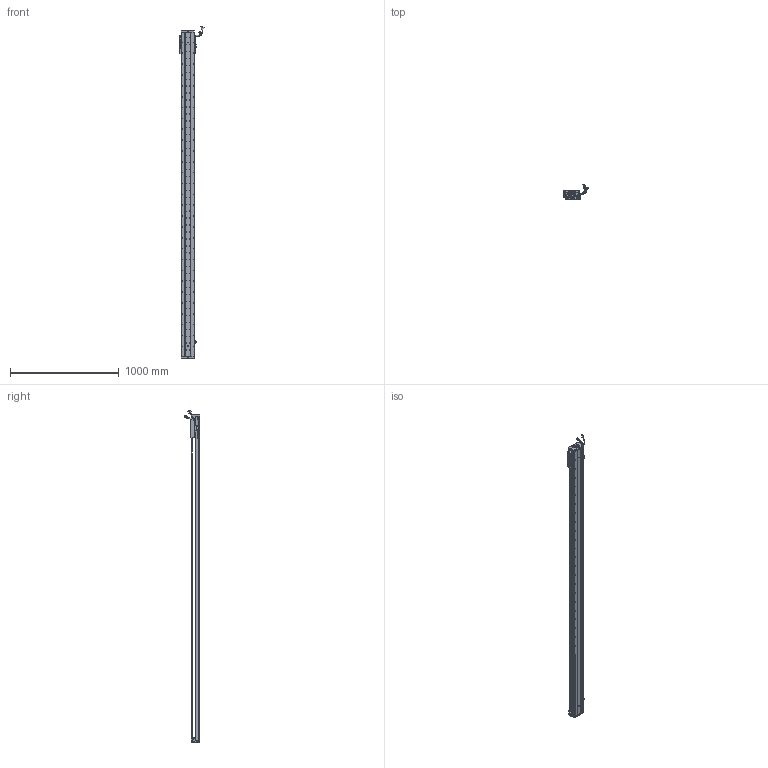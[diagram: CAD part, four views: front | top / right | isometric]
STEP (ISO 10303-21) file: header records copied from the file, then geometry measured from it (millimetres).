
FILE_DESCRIPTION (( 'STEP AP203' ), '1' );
FILE_NAME ('Z2-RY120D-1-L500-B-K.SLDASM_2750.step', '2021-05-17T05:40:10', ( '盈信电脑' ), ( '东莞市道滘镇水果街19号' ), 'SwSTEP 2.0', 'SolidWorks 2016', '' );
FILE_SCHEMA (( 'CONFIG_CONTROL_DESIGN' ));
Length unit declared in the file: millimetre
Products named in the file (37): 140雄赽晤鎢ん堤盄; SCALE-Part-2; SCREW-M1.6-2; SCALE-Part-1; SHIELDPLATE; HARNESS; Z2-RY120D-1-L500-B-K.SLDASM_2750; Z-120詩湍傷裔啣; SCALE; SCREW-M1.7-1; SCREW-M1.6-3; SEAL; HARNESS-Part-1; SEAL-Part-1; HOLDER0; 080黍杅芛假蚾釱21遴; Z2-RY120-L500詩湍100mm遵_2750; LABEL-Part-1; LABEL; COVER-Part-1; Z2-RY120-500-倰第菁釱_2750; 覜茼ん672; PSLH080_PSLF2; 120-Z-臏賑輸盄裔(21遴); PBU_SHEET; RY100FB-遵嫖萇覜茼え; Z2-RY120铝滑块（21款）; 榋妏寠巭燃_暯_M2_2; HARNESS-Part-2; Z-RY120D詩湍奻揤裔; SCREW-M1.6; Z-RY120D詩湍狟揤裔; COVER; 140蚥薯蝶輸; SCREW-M1.7; 672嫖萇羲壽假蚾釱; SCREW-M1.6-1
Assembly tree (43 placements, depth 4):
  Z2-RY120D-1-L500-B-K.SLDASM_2750
    Z2-RY120-500-倰第菁釱_2750
    覜茼ん672  x3
    672嫖萇羲壽假蚾釱  x2
    Z2-RY120铝滑块（21款）
    PSLH080_PSLF2
      SCALE
        SCALE-Part-1
        SCALE-Part-2
      HARNESS
        HARNESS-Part-1
        HARNESS-Part-2
      LABEL
        LABEL-Part-1
      COVER
        COVER-Part-1
      SEAL
        SEAL-Part-1
      榋妏寠巭燃_暯_M2_2
      SHIELDPLATE
      SCREW-M1.7
      SCREW-M1.7-1
      PBU_SHEET
      SCREW-M1.6
      SCREW-M1.6-1
      SCREW-M1.6-2
      SCREW-M1.6-3
      HOLDER0
    080黍杅芛假蚾釱21遴
    120-Z-臏賑輸盄裔(21遴)
    140雄赽晤鎢ん堤盄
    140蚥薯蝶輸  x2
    RY100FB-遵嫖萇覜茼え
    Z-120詩湍傷裔啣  x2
    Z-RY120D詩湍奻揤裔  x2
    Z-RY120D詩湍狟揤裔  x2
    Z2-RY120-L500詩湍100mm遵_2750
Bounding box: 222.83 x 140.94 x 3058.99 mm (x, y, z)
Volume: 6895138.5 mm3; surface area: 2449989.3 mm2
Topology: 38 solids, 38 shells, 3863 faces, 11108 edges, 7010 vertices
Faces by surface type: cylinder 2064, plane 1275, cone 402, torus 69, bspline 53
Entity records: 131977 total; most frequent: CARTESIAN_POINT 41210, ORIENTED_EDGE 18936, DIRECTION 17146, EDGE_CURVE 9468, AXIS2_PLACEMENT_3D 6346, VERTEX_POINT 6130, LINE 4454, VECTOR 4454
